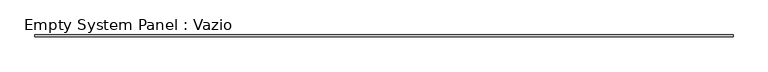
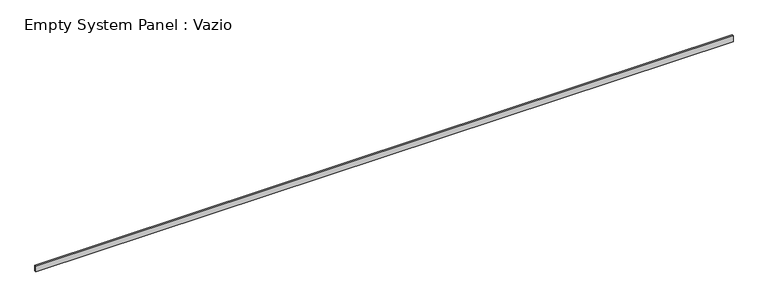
"""IFC4 building model written with IfcOpenShell, lengths in millimetres: plate geometry, Empty System Panel : Vazio."""

from ifc_helpers import new_model, si_unit, origin, origin_with_axes, place, context, project, spatial, polyline, outline, extrude, source, transform, mapped, element, save


def empty_system_panel_vazio_a828c135(model_context):
    return source(origin(), model_context, "Body", "SweptSolid", [
        extrude(outline(polyline([(19737.5005553, 50.0), (-19737.5005553, 50.0), (-19737.5005553, 150.0), (19737.5005553, 150.0), (19737.5005553, 50.0)])), origin_with_axes(), (0.0, 0.0, 1.0), 336.672311),
    ])


if __name__ == "__main__":
    model = new_model("IFC4")
    model_context = context("Model", 3, world=origin())
    ifc_project = project(units=[si_unit("LENGTHUNIT", "METRE", prefix="MILLI")], contexts=[model_context])
    site = spatial("IfcSite", under=ifc_project)
    building = spatial("IfcBuilding", under=site)
    placement = place(None, origin())
    empty_system_panel_vazio_shape = empty_system_panel_vazio_a828c135(model_context)
    element("IfcPlate", 1, ObjectType="Empty System Panel : Vazio", at=placement, inside=building, context=model_context, shape_type="MappedRepresentation", body=[
        mapped(empty_system_panel_vazio_shape, transform((0.0, 0.0, 0.0), x_axis=(1.0, 0.0, 0.0), y_axis=(0.0, 1.0, 0.0), z_axis=(0.0, 0.0, 1.0))),
    ])
    save(model, "model.ifc")
